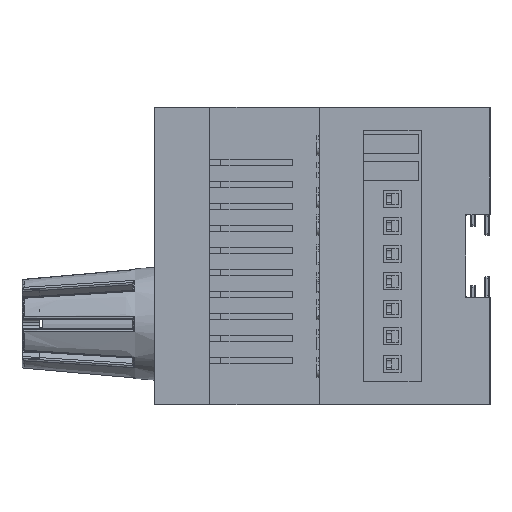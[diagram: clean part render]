
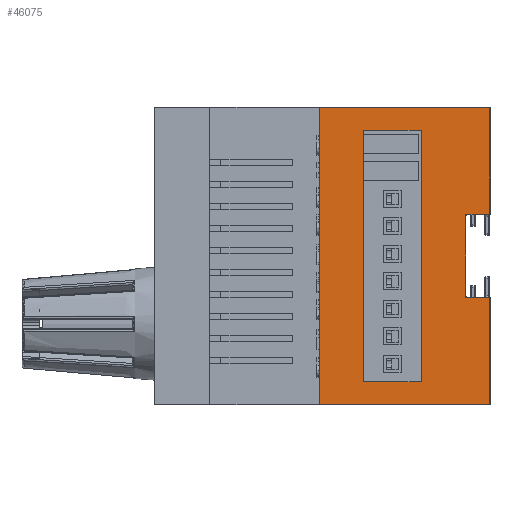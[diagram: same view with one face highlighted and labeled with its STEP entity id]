
A CAD part, left-side view. The second image highlights one B-rep face of the part: STEP entity #46075.
In plain terms, the highlighted planar face has unit normal (-1, 0, 0).
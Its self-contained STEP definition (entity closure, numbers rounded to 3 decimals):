
#73 = VECTOR ( 'NONE', #70911, 1000. ) ;
#1010 = VERTEX_POINT ( 'NONE', #19690 ) ;
#3996 = ORIENTED_EDGE ( 'NONE', *, *, #61963, .T. ) ;
#4527 = LINE ( 'NONE', #28799, #70544 ) ;
#5640 = LINE ( 'NONE', #66141, #71393 ) ;
#7913 = EDGE_CURVE ( 'NONE', #29140, #69303, #4527, .T. ) ;
#8316 = DIRECTION ( 'NONE',  ( 0., 0., 1. ) ) ;
#9176 = ORIENTED_EDGE ( 'NONE', *, *, #57171, .T. ) ;
#9207 = VECTOR ( 'NONE', #72166, 1000. ) ;
#9605 = AXIS2_PLACEMENT_3D ( 'NONE', #66578, #36336, #60622 ) ;
#10036 = CARTESIAN_POINT ( 'NONE',  ( -44.75, -12.5, 7.5 ) ) ;
#10470 = VERTEX_POINT ( 'NONE', #61449 ) ;
#11247 = DIRECTION ( 'NONE',  ( 0., 0., 1. ) ) ;
#12840 = CARTESIAN_POINT ( 'NONE',  ( -44.75, -8.1, 7.5 ) ) ;
#13045 = ORIENTED_EDGE ( 'NONE', *, *, #53144, .T. ) ;
#17519 = AXIS2_PLACEMENT_3D ( 'NONE', #26598, #43731, #8316 ) ;
#18884 = VERTEX_POINT ( 'NONE', #44562 ) ;
#19464 = FACE_BOUND ( 'NONE', #50620, .T. ) ;
#19690 = CARTESIAN_POINT ( 'NONE',  ( -44.75, -12.5, -27. ) ) ;
#19787 = VECTOR ( 'NONE', #39450, 1000. ) ;
#20022 = LINE ( 'NONE', #56642, #51161 ) ;
#20761 = VECTOR ( 'NONE', #32444, 1000. ) ;
#20844 = EDGE_CURVE ( 'NONE', #44589, #62822, #69338, .T. ) ;
#21685 = VERTEX_POINT ( 'NONE', #56190 ) ;
#22505 = DIRECTION ( 'NONE',  ( 0., 0., 1. ) ) ;
#22742 = DIRECTION ( 'NONE',  ( 0., 0., 1. ) ) ;
#22935 = EDGE_CURVE ( 'NONE', #47198, #21685, #71280, .T. ) ;
#23910 = DIRECTION ( 'NONE',  ( 0., 0., 1. ) ) ;
#25306 = VECTOR ( 'NONE', #23910, 1000. ) ;
#25427 = PLANE ( 'NONE',  #17519 ) ;
#25606 = EDGE_CURVE ( 'NONE', #36142, #47198, #59778, .T. ) ;
#26598 = CARTESIAN_POINT ( 'NONE',  ( -44.75, 0., -117.369 ) ) ;
#27156 = CARTESIAN_POINT ( 'NONE',  ( -44.75, 0., 27. ) ) ;
#28506 = VERTEX_POINT ( 'NONE', #62049 ) ;
#28799 = CARTESIAN_POINT ( 'NONE',  ( -44.75, 0., 22.8 ) ) ;
#29140 = VERTEX_POINT ( 'NONE', #39617 ) ;
#29870 = VERTEX_POINT ( 'NONE', #36832 ) ;
#30356 = ORIENTED_EDGE ( 'NONE', *, *, #70759, .T. ) ;
#31493 = ORIENTED_EDGE ( 'NONE', *, *, #7913, .T. ) ;
#32444 = DIRECTION ( 'NONE',  ( 0., 1., 0. ) ) ;
#32827 = CARTESIAN_POINT ( 'NONE',  ( -44.75, 0., -22.8 ) ) ;
#33193 = ORIENTED_EDGE ( 'NONE', *, *, #67569, .T. ) ;
#34291 = DIRECTION ( 'NONE',  ( 0., -1., 0. ) ) ;
#34684 = EDGE_CURVE ( 'NONE', #29870, #29140, #64721, .T. ) ;
#35928 = DIRECTION ( 'NONE',  ( 0., 1., 0. ) ) ;
#36142 = VERTEX_POINT ( 'NONE', #71824 ) ;
#36336 = DIRECTION ( 'NONE',  ( -1., 0., 0. ) ) ;
#36832 = CARTESIAN_POINT ( 'NONE',  ( -44.75, 10.5, -22.8 ) ) ;
#38145 = ORIENTED_EDGE ( 'NONE', *, *, #76821, .F. ) ;
#39450 = DIRECTION ( 'NONE',  ( 0., 0., -1. ) ) ;
#39612 = LINE ( 'NONE', #70237, #69032 ) ;
#39617 = CARTESIAN_POINT ( 'NONE',  ( -44.75, 10.5, 22.8 ) ) ;
#41048 = VERTEX_POINT ( 'NONE', #43852 ) ;
#43731 = DIRECTION ( 'NONE',  ( -1., 0., 0. ) ) ;
#43852 = CARTESIAN_POINT ( 'NONE',  ( -44.75, -12.5, -7.5 ) ) ;
#44562 = CARTESIAN_POINT ( 'NONE',  ( -44.75, 18.48, -27. ) ) ;
#44589 = VERTEX_POINT ( 'NONE', #71747 ) ;
#45493 = ORIENTED_EDGE ( 'NONE', *, *, #34684, .T. ) ;
#46075 = ADVANCED_FACE ( 'NONE', ( #19464, #55674 ), #25427, .T. ) ;
#47198 = VERTEX_POINT ( 'NONE', #12840 ) ;
#47904 = CARTESIAN_POINT ( 'NONE',  ( -44.75, -12.5, -117.369 ) ) ;
#48959 = CIRCLE ( 'NONE', #9605, 0.25 ) ;
#50620 = EDGE_LOOP ( 'NONE', ( #67249, #9176, #45493, #31493 ) ) ;
#51161 = VECTOR ( 'NONE', #55466, 1000. ) ;
#52403 = EDGE_CURVE ( 'NONE', #10470, #69303, #5640, .T. ) ;
#53133 = CARTESIAN_POINT ( 'NONE',  ( -44.75, 10.5, 22.8 ) ) ;
#53144 = EDGE_CURVE ( 'NONE', #28506, #62822, #53878, .T. ) ;
#53155 = ORIENTED_EDGE ( 'NONE', *, *, #54026, .T. ) ;
#53249 = EDGE_LOOP ( 'NONE', ( #54270, #33193, #13045, #68962, #3996, #38145, #30356, #53155, #66356 ) ) ;
#53425 = VECTOR ( 'NONE', #22505, 1000. ) ;
#53878 = LINE ( 'NONE', #47904, #9207 ) ;
#54026 = EDGE_CURVE ( 'NONE', #41048, #36142, #20022, .T. ) ;
#54174 = CARTESIAN_POINT ( 'NONE',  ( -44.75, -8.1, 7.5 ) ) ;
#54225 = LINE ( 'NONE', #72110, #74844 ) ;
#54270 = ORIENTED_EDGE ( 'NONE', *, *, #22935, .T. ) ;
#55466 = DIRECTION ( 'NONE',  ( 0., 1., 0. ) ) ;
#55674 = FACE_OUTER_BOUND ( 'NONE', #53249, .T. ) ;
#56190 = CARTESIAN_POINT ( 'NONE',  ( -44.75, -12.25, 7.5 ) ) ;
#56642 = CARTESIAN_POINT ( 'NONE',  ( -44.75, -12.5, -7.5 ) ) ;
#56963 = CARTESIAN_POINT ( 'NONE',  ( -44.75, 18.48, 27. ) ) ;
#57171 = EDGE_CURVE ( 'NONE', #10470, #29870, #68251, .T. ) ;
#59778 = LINE ( 'NONE', #54174, #25306 ) ;
#60622 = DIRECTION ( 'NONE',  ( 0., 0., 1. ) ) ;
#61425 = DIRECTION ( 'NONE',  ( 0., -1., 0. ) ) ;
#61449 = CARTESIAN_POINT ( 'NONE',  ( -44.75, 0., -22.8 ) ) ;
#61705 = VECTOR ( 'NONE', #34291, 1000. ) ;
#61963 = EDGE_CURVE ( 'NONE', #44589, #18884, #69674, .T. ) ;
#62049 = CARTESIAN_POINT ( 'NONE',  ( -44.75, -12.5, 7.75 ) ) ;
#62822 = VERTEX_POINT ( 'NONE', #65894 ) ;
#64721 = LINE ( 'NONE', #53133, #53425 ) ;
#65894 = CARTESIAN_POINT ( 'NONE',  ( -44.75, -12.5, 27. ) ) ;
#66141 = CARTESIAN_POINT ( 'NONE',  ( -44.75, 0., -117.369 ) ) ;
#66356 = ORIENTED_EDGE ( 'NONE', *, *, #25606, .T. ) ;
#66578 = CARTESIAN_POINT ( 'NONE',  ( -44.75, -12.25, 7.75 ) ) ;
#67249 = ORIENTED_EDGE ( 'NONE', *, *, #52403, .F. ) ;
#67569 = EDGE_CURVE ( 'NONE', #21685, #28506, #48959, .T. ) ;
#68251 = LINE ( 'NONE', #32827, #20761 ) ;
#68962 = ORIENTED_EDGE ( 'NONE', *, *, #20844, .F. ) ;
#69032 = VECTOR ( 'NONE', #11247, 1000. ) ;
#69303 = VERTEX_POINT ( 'NONE', #69721 ) ;
#69338 = LINE ( 'NONE', #27156, #73 ) ;
#69674 = LINE ( 'NONE', #56963, #19787 ) ;
#69721 = CARTESIAN_POINT ( 'NONE',  ( -44.75, 0., 22.8 ) ) ;
#70237 = CARTESIAN_POINT ( 'NONE',  ( -44.75, -12.5, -117.369 ) ) ;
#70544 = VECTOR ( 'NONE', #61425, 1000. ) ;
#70759 = EDGE_CURVE ( 'NONE', #1010, #41048, #39612, .T. ) ;
#70911 = DIRECTION ( 'NONE',  ( 0., -1., 0. ) ) ;
#71280 = LINE ( 'NONE', #10036, #61705 ) ;
#71393 = VECTOR ( 'NONE', #22742, 1000. ) ;
#71747 = CARTESIAN_POINT ( 'NONE',  ( -44.75, 18.48, 27. ) ) ;
#71824 = CARTESIAN_POINT ( 'NONE',  ( -44.75, -8.1, -7.5 ) ) ;
#72110 = CARTESIAN_POINT ( 'NONE',  ( -44.75, 0., -27. ) ) ;
#72166 = DIRECTION ( 'NONE',  ( 0., 0., 1. ) ) ;
#74844 = VECTOR ( 'NONE', #35928, 1000. ) ;
#76821 = EDGE_CURVE ( 'NONE', #1010, #18884, #54225, .T. ) ;
